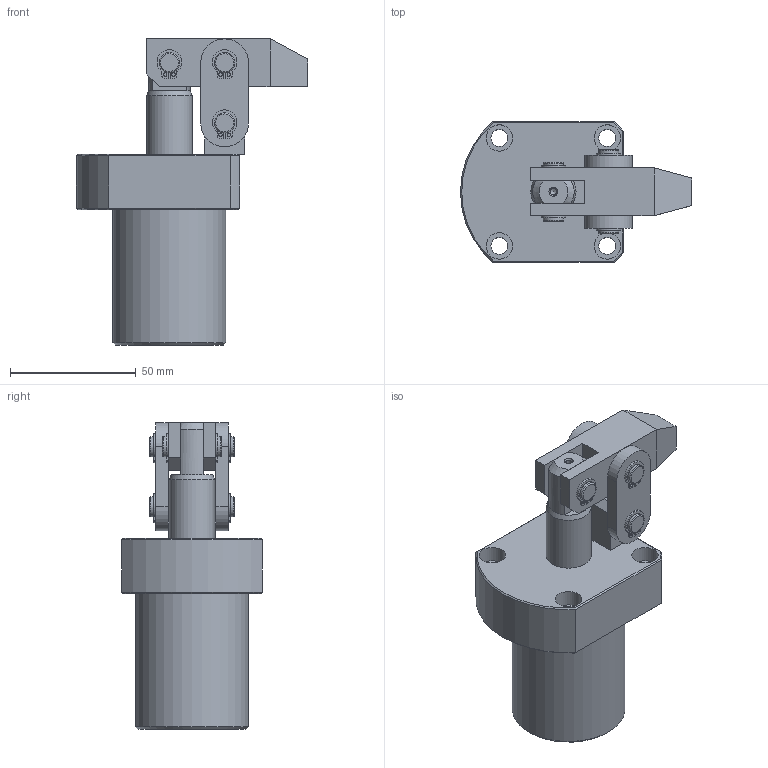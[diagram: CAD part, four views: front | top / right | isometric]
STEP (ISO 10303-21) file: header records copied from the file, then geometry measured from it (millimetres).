
FILE_DESCRIPTION(/* description */ ('Unknown'),/* implementation_level */ '2;1');
FILE_NAME(/* name */ 'HLB-FAM25-A',/* time_stamp */ '2025-05-13T02:29:40+08:00',/* author */ ('Unknown'),/* organization */ ('Unknown'),/* preprocessor_version */ 'ST-DEVELOPER v16.7',/* originating_system */ 'DEX',/* authorisation */ $);
FILE_SCHEMA (('AUTOMOTIVE_DESIGN {1 0 10303 214 3 1 1}'));
Length unit declared in the file: millimetre
Products named in the file (8): HLB-FAM25-A; HLB-FAM25-CYLINDER; HLB-25-墊; HLB-25-A; HLB-2502-AXLE CENTRE; HLB-25-PINªø·; HLB-25-PINµu-; HLB-25-C扣
Assembly tree (14 placements, depth 2):
  HLB-FAM25-A
    HLB-FAM25-CYLINDER
    HLB-25-墊  x2
    HLB-25-A
    HLB-2502-AXLE CENTRE
    HLB-25-PINªø·  x2
    HLB-25-PINµu-
    HLB-25-C扣  x6
Bounding box: 92 x 56 x 122 mm (x, y, z)
Volume: 184580 mm3; surface area: 47214.6 mm2
Topology: 14 solids, 14 shells, 254 faces, 581 edges, 381 vertices
Faces by surface type: plane 116, cylinder 113, cone 17, torus 8
Full cylindrical faces by diameter (mm): 1.4 x12, 2 x2, 2.6 x1, 4.1 x2, 6.8 x4, 7.5 x6, 8 x18, 10 x2, 10.5 x4, 18 x2, 25 x2, 45 x1
Entity records: 4126 total; most frequent: DIRECTION 711, CARTESIAN_POINT 694, ORIENTED_EDGE 528, AXIS2_PLACEMENT_3D 299, EDGE_CURVE 264, FACE_BOUND 256, EDGE_LOOP 255, VERTEX_POINT 202
